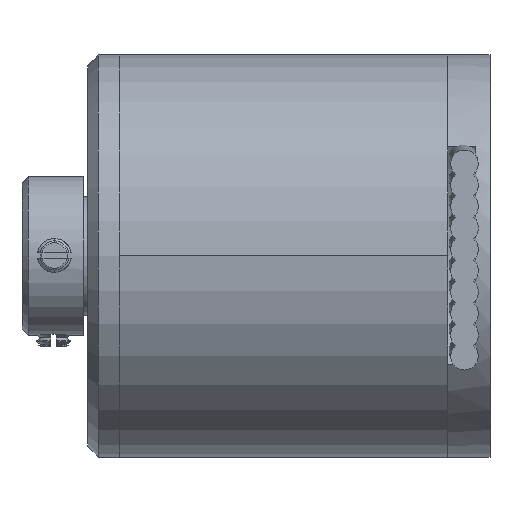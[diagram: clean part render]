
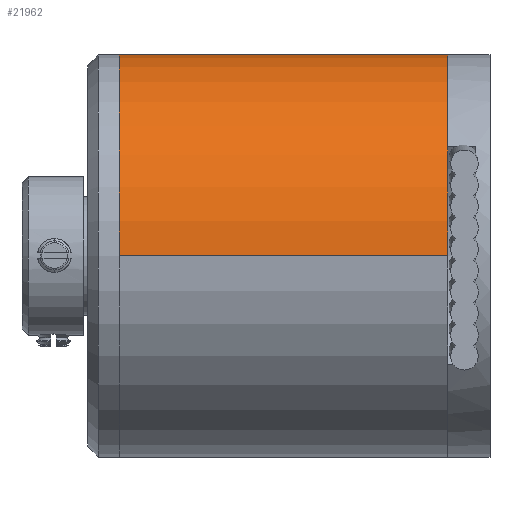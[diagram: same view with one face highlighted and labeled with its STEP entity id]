
A CAD part, top view. The second image highlights one B-rep face of the part: STEP entity #21962.
In plain terms, the highlighted cylindrical face has radius 9.5 mm (diameter 19 mm), a partial arc.
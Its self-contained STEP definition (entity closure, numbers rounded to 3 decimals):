
#4 = FACE_OUTER_BOUND ( 'NONE', #7275, .T. ) ;
#29 = EDGE_CURVE ( 'NONE', #17193, #21804, #10099, .T. ) ;
#158 = EDGE_CURVE ( 'NONE', #21804, #20700, #461, .T. ) ;
#301 = EDGE_CURVE ( 'NONE', #20820, #20700, #16253, .T. ) ;
#461 = LINE ( 'NONE', #15080, #12270 ) ;
#719 = CARTESIAN_POINT ( 'NONE',  ( 5.35, 5.472, 17.323 ) ) ;
#2849 = VECTOR ( 'NONE', #6489, 1000. ) ;
#3398 = DIRECTION ( 'NONE',  ( 0., 0., 1. ) ) ;
#4465 = EDGE_CURVE ( 'NONE', #17193, #20820, #19499, .T. ) ;
#6489 = DIRECTION ( 'NONE',  ( -1., 0., 0. ) ) ;
#7275 = EDGE_LOOP ( 'NONE', ( #16606, #16630, #16810, #16833 ) ) ;
#8255 = CARTESIAN_POINT ( 'NONE',  ( 5.35, 5.472, 17.323 ) ) ;
#10099 = CIRCLE ( 'NONE', #11627, 9.5 ) ;
#10281 = AXIS2_PLACEMENT_3D ( 'NONE', #20135, #14174, #3398 ) ;
#11170 = AXIS2_PLACEMENT_3D ( 'NONE', #13572, #13498, #13548 ) ;
#11627 = AXIS2_PLACEMENT_3D ( 'NONE', #16608, #16579, #16553 ) ;
#12270 = VECTOR ( 'NONE', #15041, 1000. ) ;
#13010 = CARTESIAN_POINT ( 'NONE',  ( 5.35, 5.472, -1.677 ) ) ;
#13498 = DIRECTION ( 'NONE',  ( -1., 0., 0. ) ) ;
#13548 = DIRECTION ( 'NONE',  ( 0., 0., 1. ) ) ;
#13572 = CARTESIAN_POINT ( 'NONE',  ( 5.35, 5.472, 7.823 ) ) ;
#14174 = DIRECTION ( 'NONE',  ( -1., 0., 0. ) ) ;
#15041 = DIRECTION ( 'NONE',  ( -1., 0., 0. ) ) ;
#15080 = CARTESIAN_POINT ( 'NONE',  ( 5.35, 5.472, -1.677 ) ) ;
#16253 = CIRCLE ( 'NONE', #11170, 9.5 ) ;
#16553 = DIRECTION ( 'NONE',  ( 0., 0., 1. ) ) ;
#16579 = DIRECTION ( 'NONE',  ( -1., 0., 0. ) ) ;
#16606 = ORIENTED_EDGE ( 'NONE', *, *, #29, .T. ) ;
#16608 = CARTESIAN_POINT ( 'NONE',  ( 20.85, 5.472, 7.823 ) ) ;
#16630 = ORIENTED_EDGE ( 'NONE', *, *, #158, .T. ) ;
#16810 = ORIENTED_EDGE ( 'NONE', *, *, #301, .F. ) ;
#16833 = ORIENTED_EDGE ( 'NONE', *, *, #4465, .F. ) ;
#16949 = CYLINDRICAL_SURFACE ( 'NONE', #10281, 9.5 ) ;
#17193 = VERTEX_POINT ( 'NONE', #23868 ) ;
#17225 = CARTESIAN_POINT ( 'NONE',  ( 20.85, 5.472, -1.677 ) ) ;
#19499 = LINE ( 'NONE', #8255, #2849 ) ;
#20135 = CARTESIAN_POINT ( 'NONE',  ( 5.35, 5.472, 7.823 ) ) ;
#20700 = VERTEX_POINT ( 'NONE', #13010 ) ;
#20820 = VERTEX_POINT ( 'NONE', #719 ) ;
#21804 = VERTEX_POINT ( 'NONE', #17225 ) ;
#21962 = ADVANCED_FACE ( 'NONE', ( #4 ), #16949, .T. ) ;
#23868 = CARTESIAN_POINT ( 'NONE',  ( 20.85, 5.472, 17.323 ) ) ;
